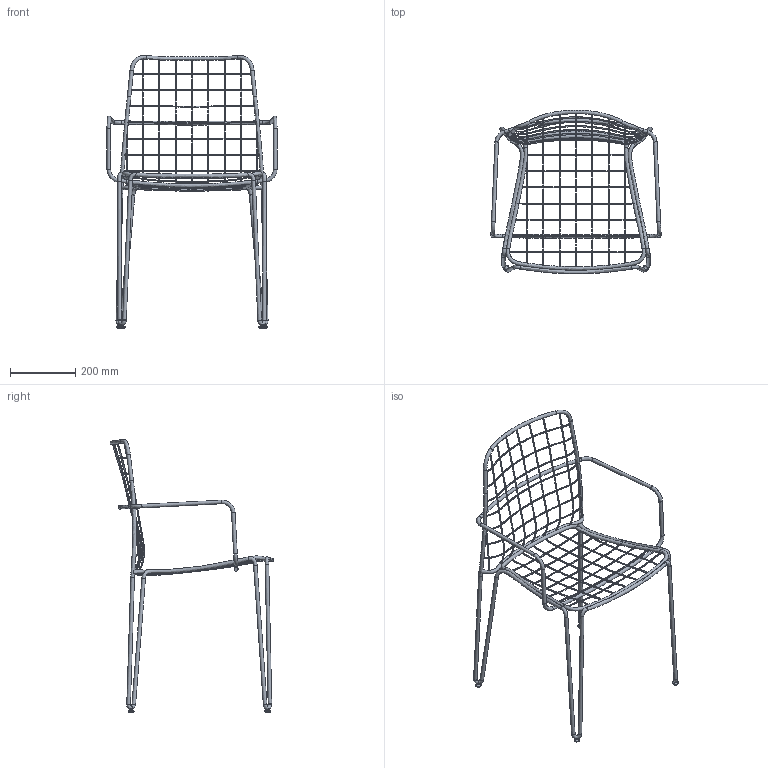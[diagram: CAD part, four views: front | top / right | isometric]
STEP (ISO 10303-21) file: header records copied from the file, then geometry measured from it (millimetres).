
FILE_DESCRIPTION(/* description */ (''),/* implementation_level */ '2;1');
FILE_NAME(/* name */ 'C:\Users\simone\Dropbox\3DTECH\Cassina - Catalogo Custom Interiors\MODELLI 3D\DEFINITIVI\ESPORTATI\CI-A05C SEDIA OUTDOOR CON BRACCIOLI\CI-A05C.stp',/* time_stamp */ '2021-11-24T13:36:55+07:00',/* author */ ('simone'),/* organization */ (''),/* preprocessor_version */ 'ST-DEVELOPER v18.1',/* originating_system */ 'Autodesk Inventor 2022',/* authorisation */ '');
FILE_SCHEMA (('AUTOMOTIVE_DESIGN { 1 0 10303 214 3 1 1 }'));
Length unit declared in the file: millimetre
Products named in the file (1): IN-OUT CHAI - MODIFICATA  22-09-2021
Bounding box: 519.99 x 500.25 x 834.95 mm (x, y, z)
Volume: 998250 mm3; surface area: 443224.4 mm2
Topology: 41 solids, 41 shells, 195 faces, 331 edges, 219 vertices
Faces by surface type: plane 74, bspline 73, cylinder 32, torus 12, cone 4
Full cylindrical faces by diameter (mm): 10 x4, 11 x20, 15 x4, 18 x4
Entity records: 27827 total; most frequent: CARTESIAN_POINT 24384, DIRECTION 702, ORIENTED_EDGE 654, AXIS2_PLACEMENT_3D 333, EDGE_CURVE 327, VERTEX_POINT 214, EDGE_LOOP 199, CIRCLE 196
